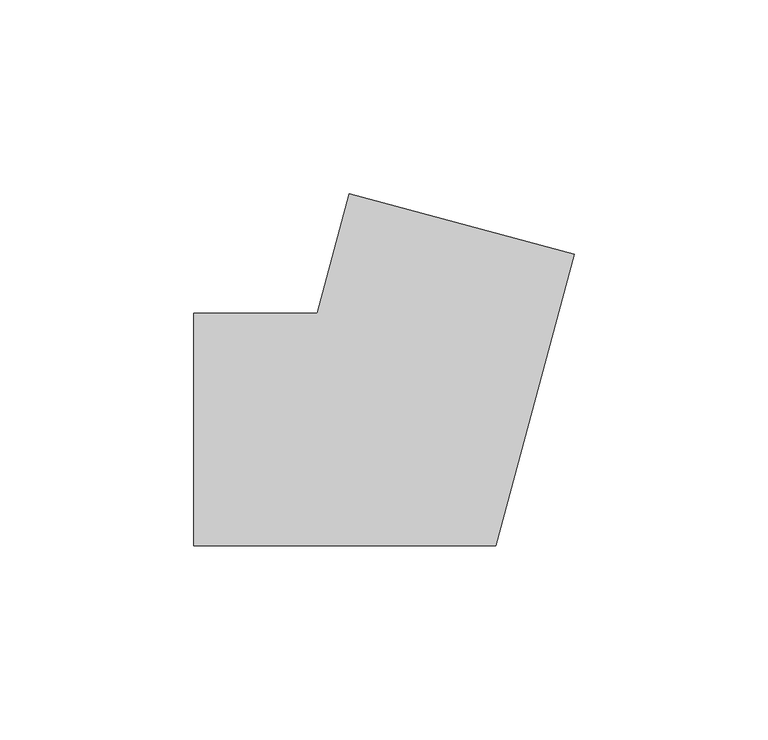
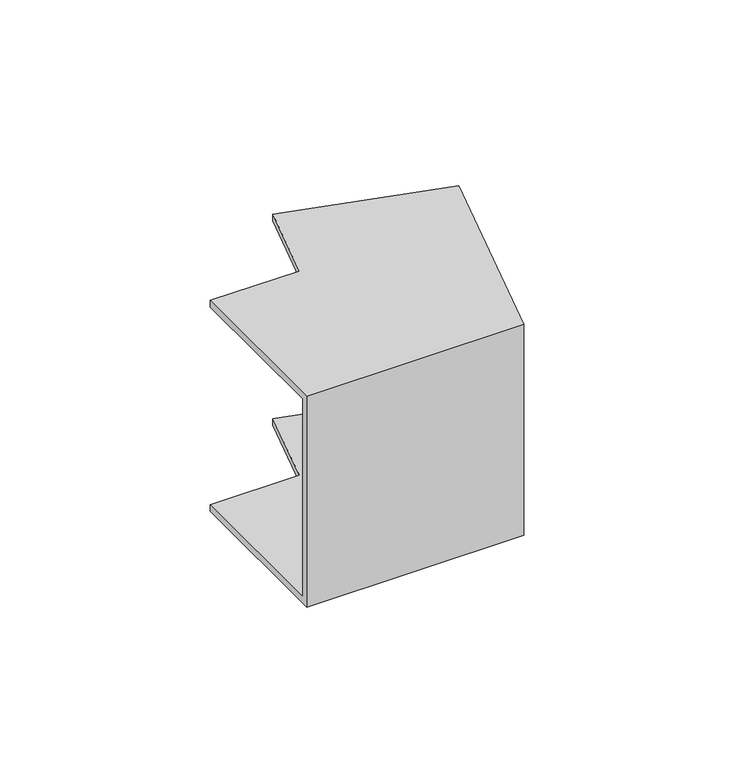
"""IFC4 building model written with IfcOpenShell, lengths in millimetres: cable carrier fitting geometry, КНС_УголВнутренний_ILC_DKC : Угол внутренний_DKC."""

from ifc_helpers import new_model, si_unit, origin, place, context, project, spatial, faceted_brep, source, transform, mapped, element, save


def cable_carrier_fitting_a1622b1d(model_context):
    return source(origin(), model_context, "Body", "Brep", [
        faceted_brep([(-54.8762542, -30.0, 40.0), (-54.8762542, 30.0, 40.0), (-54.8762542, 30.0, 37.5), (-54.8762542, -27.5, 37.5), (-54.8762542, -27.5, -37.5), (-54.8762542, 30.0, -37.5), (-54.8762542, 30.0, -40.0), (-54.8762542, -30.0, -40.0), (43.1807945, 45.2418198, 40.0), (43.1807945, 45.2418198, -40.0), (-14.7747551, 60.7709626, -40.0), (-14.7747551, 60.7709626, -37.5), (40.7659799, 45.8888675, -37.5), (40.7659799, 45.8888675, 37.5), (-14.7747551, 60.7709626, 37.5), (-14.7747551, 60.7709626, 40.0), (23.0198096, -30.0, 40.0), (-23.0198096, 30.0, 40.0), (-23.0198096, 30.0, 37.5), (21.1014922, -27.5, 37.5), (21.1014922, -27.5, -37.5), (-23.0198096, 30.0, -37.5), (-23.0198096, 30.0, -40.0), (23.0198096, -30.0, -40.0)], [[[0, 1, 2, 3, 4, 5, 6, 7]], [[8, 9, 10, 11, 12, 13, 14, 15]], [[1, 0, 16, 8, 15, 17]], [[2, 1, 17, 18]], [[3, 2, 18, 14, 13, 19]], [[4, 3, 19, 20]], [[5, 4, 20, 12, 11, 21]], [[6, 5, 21, 22]], [[7, 6, 22, 10, 9, 23]], [[0, 7, 23, 16]], [[18, 17, 15, 14]], [[20, 19, 13, 12]], [[22, 21, 11, 10]], [[16, 23, 9, 8]]]),
    ])


if __name__ == "__main__":
    model = new_model("IFC4")
    model_context = context("Model", 3, world=origin())
    ifc_project = project(units=[si_unit("LENGTHUNIT", "METRE", prefix="MILLI")], contexts=[model_context])
    site = spatial("IfcSite", under=ifc_project)
    building = spatial("IfcBuilding", under=site)
    placement = place(None, origin())
    cable_carrier_fitting_shape = cable_carrier_fitting_a1622b1d(model_context)
    element("IfcCableCarrierFitting", 1, ObjectType="КНС_УголВнутренний_ILC_DKC : Угол внутренний_DKC", at=placement, inside=building, context=model_context, shape_type="MappedRepresentation", body=[
        mapped(cable_carrier_fitting_shape, transform((0.0, 0.0, 0.0), x_axis=(1.0, 0.0, 0.0), y_axis=(0.0, 1.0, 0.0), z_axis=(0.0, 0.0, 1.0))),
    ])
    save(model, "model.ifc")
